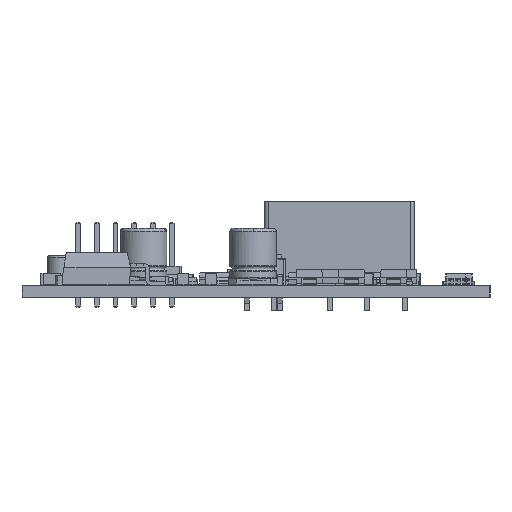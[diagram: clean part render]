
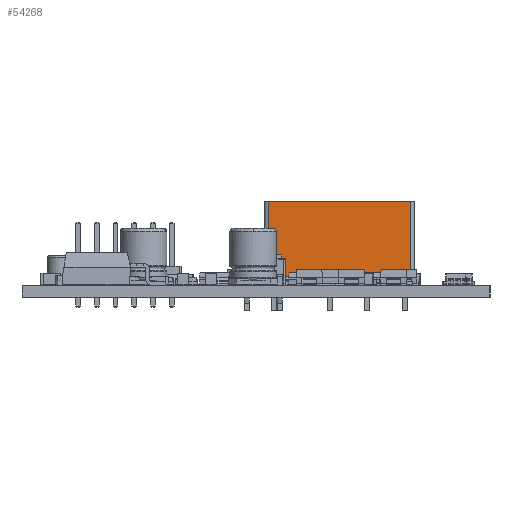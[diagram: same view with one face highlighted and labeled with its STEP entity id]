
A CAD part, left-side view. The second image highlights one B-rep face of the part: STEP entity #54268.
In plain terms, the highlighted planar face has unit normal (-1, 0, 0) as drawn and (0, -1, 0) by its records, which use the part's own axes.
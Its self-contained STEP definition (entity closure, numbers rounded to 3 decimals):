
#53042 = PLANE('',#53043);
#53043 = AXIS2_PLACEMENT_3D('',#53044,#53045,#53046);
#53044 = CARTESIAN_POINT('',(-1.26,-1.24,0.));
#53045 = DIRECTION('',(0.,0.,-1.));
#53046 = DIRECTION('',(-1.,0.,0.));
#53225 = EDGE_CURVE('',#53226,#53228,#53230,.T.);
#53226 = VERTEX_POINT('',#53227);
#53227 = CARTESIAN_POINT('',(-0.76,-1.24,0.));
#53228 = VERTEX_POINT('',#53229);
#53229 = CARTESIAN_POINT('',(18.54,-1.24,0.));
#53230 = SURFACE_CURVE('',#53231,(#53235,#53242),.PCURVE_S1.);
#53231 = LINE('',#53232,#53233);
#53232 = CARTESIAN_POINT('',(-1.26,-1.24,0.));
#53233 = VECTOR('',#53234,1.);
#53234 = DIRECTION('',(1.,0.,0.));
#53235 = PCURVE('',#53042,#53236);
#53236 = DEFINITIONAL_REPRESENTATION('',(#53237),#53241);
#53237 = LINE('',#53238,#53239);
#53238 = CARTESIAN_POINT('',(0.,0.));
#53239 = VECTOR('',#53240,1.);
#53240 = DIRECTION('',(-1.,0.));
#53241 = ( GEOMETRIC_REPRESENTATION_CONTEXT(2) 
PARAMETRIC_REPRESENTATION_CONTEXT() REPRESENTATION_CONTEXT('2D SPACE',''
  ) );
#53242 = PCURVE('',#53243,#53248);
#53243 = PLANE('',#53244);
#53244 = AXIS2_PLACEMENT_3D('',#53245,#53246,#53247);
#53245 = CARTESIAN_POINT('',(-1.26,-1.24,0.));
#53246 = DIRECTION('',(0.,1.,0.));
#53247 = DIRECTION('',(1.,0.,0.));
#53248 = DEFINITIONAL_REPRESENTATION('',(#53249),#53253);
#53249 = LINE('',#53250,#53251);
#53250 = CARTESIAN_POINT('',(0.,0.));
#53251 = VECTOR('',#53252,1.);
#53252 = DIRECTION('',(1.,0.));
#53253 = ( GEOMETRIC_REPRESENTATION_CONTEXT(2) 
PARAMETRIC_REPRESENTATION_CONTEXT() REPRESENTATION_CONTEXT('2D SPACE',''
  ) );
#53272 = CYLINDRICAL_SURFACE('',#53273,0.5);
#53273 = AXIS2_PLACEMENT_3D('',#53274,#53275,#53276);
#53274 = CARTESIAN_POINT('',(-0.76,-0.74,0.));
#53275 = DIRECTION('',(0.,0.,1.));
#53276 = DIRECTION('',(0.,-1.,0.));
#53453 = CYLINDRICAL_SURFACE('',#53454,0.5);
#53454 = AXIS2_PLACEMENT_3D('',#53455,#53456,#53457);
#53455 = CARTESIAN_POINT('',(18.54,-0.74,0.));
#53456 = DIRECTION('',(0.,0.,1.));
#53457 = DIRECTION('',(0.,-1.,0.));
#54268 = ADVANCED_FACE('',(#54269),#53243,.F.);
#54269 = FACE_BOUND('',#54270,.F.);
#54270 = EDGE_LOOP('',(#54271,#54272,#54295,#54323));
#54271 = ORIENTED_EDGE('',*,*,#53225,.F.);
#54272 = ORIENTED_EDGE('',*,*,#54273,.T.);
#54273 = EDGE_CURVE('',#53226,#54274,#54276,.T.);
#54274 = VERTEX_POINT('',#54275);
#54275 = CARTESIAN_POINT('',(-0.76,-1.24,11.4));
#54276 = SURFACE_CURVE('',#54277,(#54281,#54288),.PCURVE_S1.);
#54277 = LINE('',#54278,#54279);
#54278 = CARTESIAN_POINT('',(-0.76,-1.24,0.));
#54279 = VECTOR('',#54280,1.);
#54280 = DIRECTION('',(0.,0.,1.));
#54281 = PCURVE('',#53243,#54282);
#54282 = DEFINITIONAL_REPRESENTATION('',(#54283),#54287);
#54283 = LINE('',#54284,#54285);
#54284 = CARTESIAN_POINT('',(0.5,0.));
#54285 = VECTOR('',#54286,1.);
#54286 = DIRECTION('',(0.,-1.));
#54287 = ( GEOMETRIC_REPRESENTATION_CONTEXT(2) 
PARAMETRIC_REPRESENTATION_CONTEXT() REPRESENTATION_CONTEXT('2D SPACE',''
  ) );
#54288 = PCURVE('',#53272,#54289);
#54289 = DEFINITIONAL_REPRESENTATION('',(#54290),#54294);
#54290 = LINE('',#54291,#54292);
#54291 = CARTESIAN_POINT('',(6.283,0.));
#54292 = VECTOR('',#54293,1.);
#54293 = DIRECTION('',(0.,1.));
#54294 = ( GEOMETRIC_REPRESENTATION_CONTEXT(2) 
PARAMETRIC_REPRESENTATION_CONTEXT() REPRESENTATION_CONTEXT('2D SPACE',''
  ) );
#54295 = ORIENTED_EDGE('',*,*,#54296,.T.);
#54296 = EDGE_CURVE('',#54274,#54297,#54299,.T.);
#54297 = VERTEX_POINT('',#54298);
#54298 = CARTESIAN_POINT('',(18.54,-1.24,11.4));
#54299 = SURFACE_CURVE('',#54300,(#54304,#54311),.PCURVE_S1.);
#54300 = LINE('',#54301,#54302);
#54301 = CARTESIAN_POINT('',(-1.26,-1.24,11.4));
#54302 = VECTOR('',#54303,1.);
#54303 = DIRECTION('',(1.,0.,0.));
#54304 = PCURVE('',#53243,#54305);
#54305 = DEFINITIONAL_REPRESENTATION('',(#54306),#54310);
#54306 = LINE('',#54307,#54308);
#54307 = CARTESIAN_POINT('',(0.,-11.4));
#54308 = VECTOR('',#54309,1.);
#54309 = DIRECTION('',(1.,0.));
#54310 = ( GEOMETRIC_REPRESENTATION_CONTEXT(2) 
PARAMETRIC_REPRESENTATION_CONTEXT() REPRESENTATION_CONTEXT('2D SPACE',''
  ) );
#54311 = PCURVE('',#54312,#54317);
#54312 = PLANE('',#54313);
#54313 = AXIS2_PLACEMENT_3D('',#54314,#54315,#54316);
#54314 = CARTESIAN_POINT('',(-1.26,-1.24,11.4));
#54315 = DIRECTION('',(0.,0.,-1.));
#54316 = DIRECTION('',(-1.,0.,0.));
#54317 = DEFINITIONAL_REPRESENTATION('',(#54318),#54322);
#54318 = LINE('',#54319,#54320);
#54319 = CARTESIAN_POINT('',(0.,0.));
#54320 = VECTOR('',#54321,1.);
#54321 = DIRECTION('',(-1.,0.));
#54322 = ( GEOMETRIC_REPRESENTATION_CONTEXT(2) 
PARAMETRIC_REPRESENTATION_CONTEXT() REPRESENTATION_CONTEXT('2D SPACE',''
  ) );
#54323 = ORIENTED_EDGE('',*,*,#54324,.F.);
#54324 = EDGE_CURVE('',#53228,#54297,#54325,.T.);
#54325 = SURFACE_CURVE('',#54326,(#54330,#54337),.PCURVE_S1.);
#54326 = LINE('',#54327,#54328);
#54327 = CARTESIAN_POINT('',(18.54,-1.24,0.));
#54328 = VECTOR('',#54329,1.);
#54329 = DIRECTION('',(0.,0.,1.));
#54330 = PCURVE('',#53243,#54331);
#54331 = DEFINITIONAL_REPRESENTATION('',(#54332),#54336);
#54332 = LINE('',#54333,#54334);
#54333 = CARTESIAN_POINT('',(19.8,0.));
#54334 = VECTOR('',#54335,1.);
#54335 = DIRECTION('',(0.,-1.));
#54336 = ( GEOMETRIC_REPRESENTATION_CONTEXT(2) 
PARAMETRIC_REPRESENTATION_CONTEXT() REPRESENTATION_CONTEXT('2D SPACE',''
  ) );
#54337 = PCURVE('',#53453,#54338);
#54338 = DEFINITIONAL_REPRESENTATION('',(#54339),#54343);
#54339 = LINE('',#54340,#54341);
#54340 = CARTESIAN_POINT('',(0.,0.));
#54341 = VECTOR('',#54342,1.);
#54342 = DIRECTION('',(0.,1.));
#54343 = ( GEOMETRIC_REPRESENTATION_CONTEXT(2) 
PARAMETRIC_REPRESENTATION_CONTEXT() REPRESENTATION_CONTEXT('2D SPACE',''
  ) );
